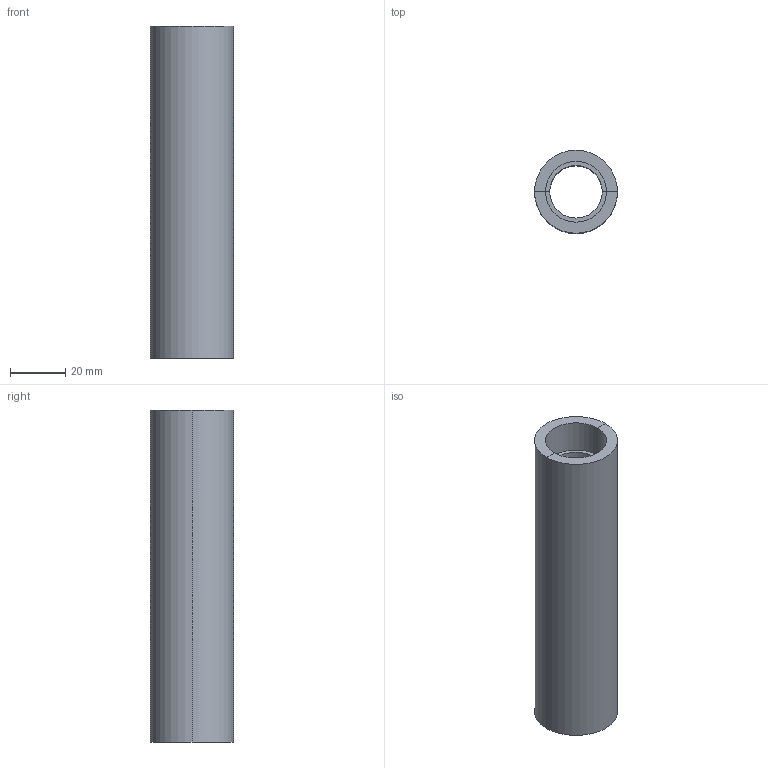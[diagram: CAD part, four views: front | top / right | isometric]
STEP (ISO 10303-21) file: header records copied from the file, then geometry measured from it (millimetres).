
FILE_DESCRIPTION(('BendCAD AP242 PMI export'),'2;1');
FILE_NAME('bendcad.step','',('BendCAD'),('BendCAD'),'BendCAD','BendCAD','');
FILE_SCHEMA(('AP242_MANAGED_MODEL_BASED_3D_ENGINEERING_MIM_LF'));
Length unit declared in the file: millimetre
Products named in the file (1): BENDCAD
Bounding box: 30 x 30 x 120 mm (x, y, z)
Volume: 48577.7 mm3; surface area: 19536 mm2
Topology: 1 solids, 1 shells, 16 faces, 32 edges, 16 vertices
Faces by surface type: plane 8, cylinder 8
Entity records: 424 total; most frequent: DIRECTION 82, ORIENTED_EDGE 64, CARTESIAN_POINT 49, AXIS2_PLACEMENT_3D 33, EDGE_CURVE 32, CIRCLE 16, TRIMMED_CURVE 16, VECTOR 16
